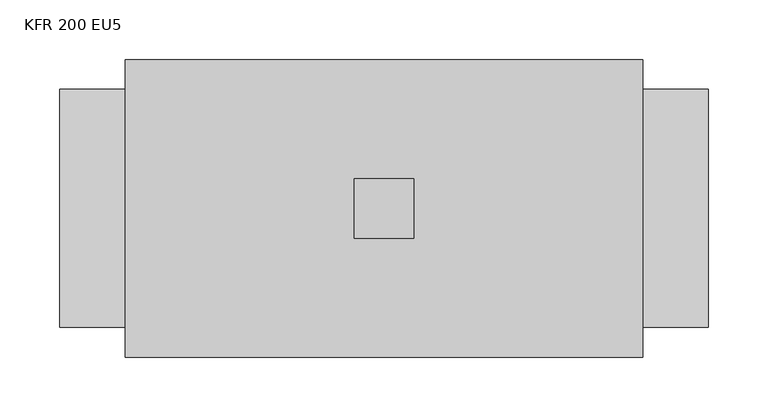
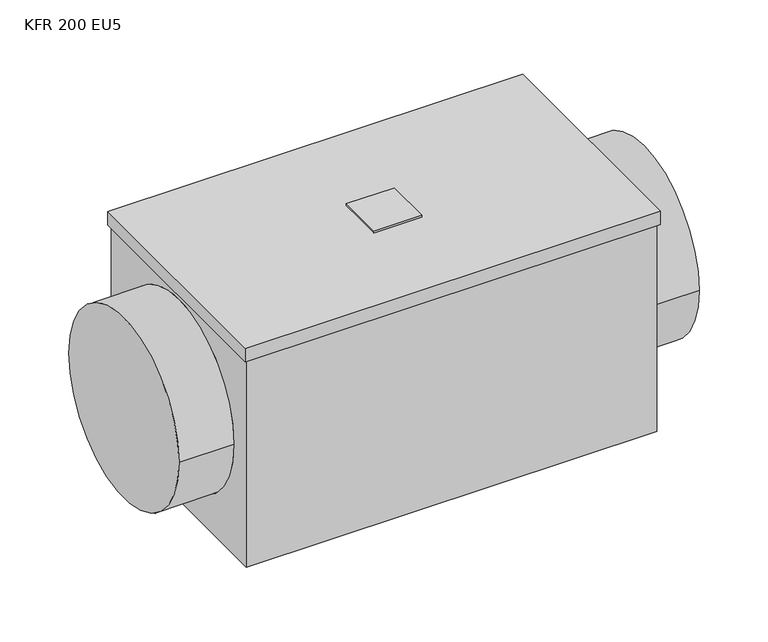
"""IFC4 building model written with IfcOpenShell, lengths in millimetres: damper geometry, KORF_Фильтр_Карманный_Круглый_KFR : KFR 200 EU5."""

from ifc_helpers import new_model, si_unit, frame, origin, place, context, project, spatial, polyline, circle_curve, outline, extrude, source, transform, mapped, element, save
from ifc_brep_helpers import plane_surface, cylinder_surface, advanced_brep


def kfr_200_eu5_2e2174df(model_context):
    return source(origin(), model_context, "Body", "SolidModel", [
        extrude(outline(polyline([(247.5, -25.0), (247.5, 25.0), (297.5, 25.0), (297.5, -25.0), (247.5, -25.0)])), frame((0.0, 0.0, 122.5), z_axis=(0.0, 0.0, 1.0), x_axis=(1.0, 0.0, 0.0)), (0.0, 0.0, 1.0), 2.0),
        advanced_brep(
        [(545.0, -100.0, 0.0), (545.0, 100.0, 0.0), (0.0, -100.0, 0.0), (0.0, 100.0, 0.0), (487.5, -100.0, 0.0), (487.5, 100.0, 0.0), (57.5, 100.0, 0.0), (57.5, -100.0, 0.0), (487.5, -122.5, -122.5), (487.5, 122.5, -122.5), (487.5, 122.5, 107.5), (487.5, -122.5, 107.5), (57.5, 122.5, -122.5), (57.5, -122.5, -122.5), (57.5, -122.5, 107.5), (57.5, 122.5, 107.5), (490.0, 125.0, 122.5), (55.0, 125.0, 122.5), (55.0, -125.0, 122.5), (490.0, -125.0, 122.5), (490.0, 125.0, 107.5), (490.0, -125.0, 107.5), (55.0, -125.0, 107.5), (55.0, 125.0, 107.5)],
        [
            (0, 1, circle_curve(frame((545.0, 0.0, 0.0), z_axis=(1.0, 0.0, 0.0), x_axis=(0.0, 1.0, 0.0)), 100.0)),
            (1, 0, circle_curve(frame((545.0, 0.0, 0.0), z_axis=(1.0, 0.0, 0.0), x_axis=(0.0, 1.0, 0.0)), 100.0)),
            (2, 3, circle_curve(frame((0.0, 0.0, 0.0), z_axis=(-1.0, 0.0, 0.0), x_axis=(0.0, 1.0, 0.0)), 100.0)),
            (3, 2, circle_curve(frame((0.0, 0.0, 0.0), z_axis=(-1.0, 0.0, 0.0), x_axis=(0.0, 1.0, 0.0)), 100.0)),
            (0, 4),
            (4, 5, circle_curve(frame((487.5, 0.0, 0.0), z_axis=(1.0, 0.0, 0.0), x_axis=(0.0, 1.0, 0.0)), 100.0)),
            (5, 1),
            (3, 6),
            (6, 7, circle_curve(frame((57.5, 0.0, 0.0), z_axis=(-1.0, 0.0, 0.0), x_axis=(0.0, 1.0, 0.0)), 100.0)),
            (7, 2),
            (5, 4, circle_curve(frame((487.5, 0.0, 0.0), z_axis=(1.0, 0.0, 0.0), x_axis=(0.0, 1.0, 0.0)), 100.0)),
            (7, 6, circle_curve(frame((57.5, 0.0, 0.0), z_axis=(-1.0, 0.0, 0.0), x_axis=(0.0, 1.0, 0.0)), 100.0)),
            (8, 9),
            (9, 10),
            (10, 11),
            (11, 8),
            (12, 13),
            (13, 14),
            (14, 15),
            (15, 12),
            (13, 8),
            (11, 14),
            (12, 9),
            (15, 10),
            (16, 17),
            (17, 18),
            (18, 19),
            (19, 16),
            (20, 21),
            (21, 22),
            (22, 23),
            (23, 20),
            (16, 20),
            (23, 17),
            (22, 18),
            (21, 19),
        ],
        [
            plane_surface(frame((545.0, 100.0, 0.0), z_axis=(1.0, 0.0, 0.0), x_axis=(0.0, 0.0, 1.0))),
            plane_surface(frame((0.0, 100.0, 0.0), z_axis=(-1.0, 0.0, 0.0), x_axis=(0.0, 0.0, -1.0))),
            cylinder_surface(frame((0.0, 0.0, 0.0), z_axis=(1.0, 0.0, 0.0), x_axis=(0.0, 1.0, 0.0)), 100.0),
            plane_surface(frame((487.5, -122.5, 122.5), z_axis=(1.0, 0.0, 0.0), x_axis=(0.0, 0.0, -1.0))),
            plane_surface(frame((57.5, -122.5, 122.5), z_axis=(-1.0, 0.0, 0.0), x_axis=(0.0, 0.0, 1.0))),
            plane_surface(frame((487.5, -122.5, 122.5), z_axis=(0.0, -1.0, 0.0), x_axis=(-1.0, 0.0, 0.0))),
            plane_surface(frame((487.5, -122.5, -122.5), z_axis=(0.0, 0.0, -1.0), x_axis=(-1.0, 0.0, 0.0))),
            plane_surface(frame((487.5, 122.5, -122.5), z_axis=(0.0, 1.0, 0.0), x_axis=(-1.0, 0.0, 0.0))),
            plane_surface(frame((487.5, 122.5, 122.5), z_axis=(0.0, 0.0, 1.0), x_axis=(-1.0, 0.0, 0.0))),
            plane_surface(frame((55.0, 125.0, 107.5), z_axis=(0.0, 0.0, -1.0), x_axis=(1.0, 0.0, 0.0))),
            plane_surface(frame((490.0, 125.0, 122.5), z_axis=(0.0, 1.0, 0.0), x_axis=(0.0, 0.0, -1.0))),
            plane_surface(frame((55.0, 125.0, 122.5), z_axis=(-1.0, 0.0, 0.0), x_axis=(0.0, 0.0, -1.0))),
            plane_surface(frame((55.0, -125.0, 122.5), z_axis=(0.0, -1.0, 0.0), x_axis=(0.0, 0.0, -1.0))),
            plane_surface(frame((490.0, -125.0, 122.5), z_axis=(1.0, 0.0, 0.0), x_axis=(0.0, 0.0, -1.0))),
        ],
        [
            (0, [[1, 2]]),
            (1, [[3, 4]]),
            (2, [[-1, 5, 6, 7]]),
            (2, [[-4, 8, 9, 10]]),
            (2, [[-2, -7, 11, -5]]),
            (2, [[-3, -10, 12, -8]]),
            (3, [[13, 14, 15, 16], [-6, -11]]),
            (4, [[17, 18, 19, 20], [-9, -12]]),
            (5, [[21, -16, 22, -18]]),
            (6, [[-13, -21, -17, 23]]),
            (7, [[-23, -20, 24, -14]]),
            (8, [[25, 26, 27, 28]]),
            (9, [[29, 30, 31, 32], [-15, -24, -19, -22]]),
            (10, [[-25, 33, -32, 34]]),
            (11, [[-26, -34, -31, 35]]),
            (12, [[-27, -35, -30, 36]]),
            (13, [[-28, -36, -29, -33]]),
        ],
    ),
    ])


if __name__ == "__main__":
    model = new_model("IFC4")
    model_context = context("Model", 3, world=origin())
    ifc_project = project(units=[si_unit("LENGTHUNIT", "METRE", prefix="MILLI")], contexts=[model_context])
    site = spatial("IfcSite", under=ifc_project)
    building = spatial("IfcBuilding", under=site)
    placement = place(None, origin())
    kfr_200_eu5_shape = kfr_200_eu5_2e2174df(model_context)
    element("IfcDamper", 1, ObjectType="KORF_Фильтр_Карманный_Круглый_KFR : KFR 200 EU5", at=placement, inside=building, context=model_context, shape_type="MappedRepresentation", body=[
        mapped(kfr_200_eu5_shape, transform((0.0, 0.0, 0.0), x_axis=(1.0, 0.0, 0.0), y_axis=(0.0, 1.0, 0.0), z_axis=(0.0, 0.0, 1.0))),
    ])
    save(model, "model.ifc")
